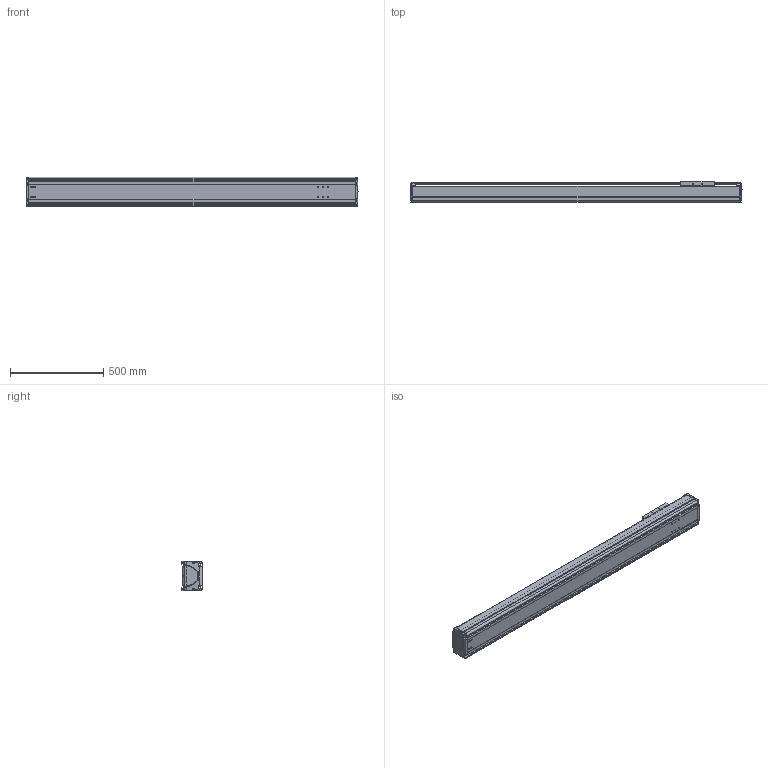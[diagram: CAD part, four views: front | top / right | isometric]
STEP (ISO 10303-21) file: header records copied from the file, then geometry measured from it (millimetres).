
FILE_DESCRIPTION((''),'2;1');
FILE_NAME('BE50G-ST-M_N-E0_IGS_PRT','2017-06-18T',(' '),(''),'PRO/ENGINEER BY PARAMETRIC TECHNOLOGY CORPORATION, 2015030','PRO/ENGINEER BY PARAMETRIC TECHNOLOGY CORPORATION, 2015030','');
FILE_SCHEMA(('CONFIG_CONTROL_DESIGN'));
Length unit declared in the file: millimetre
Products named in the file (1): BE50G-ST-M_N-E0_IGS_PRT
Bounding box: 1779.98 x 110 x 160 mm (x, y, z)
Volume: 7322298.6 mm3; surface area: 2668259.5 mm2
Topology: 3 solids, 108 shells, 1722 faces, 4610 edges, 2981 vertices
Faces by surface type: cylinder 800, plane 607, bspline 102, torus 87, cone 86, sphere 40
Entity records: 59807 total; most frequent: CARTESIAN_POINT 17300, ORIENTED_EDGE 8754, DIRECTION 8648, EDGE_CURVE 4584, AXIS2_PLACEMENT_3D 3256, VERTEX_POINT 2973, VECTOR 2136, LINE 2136
